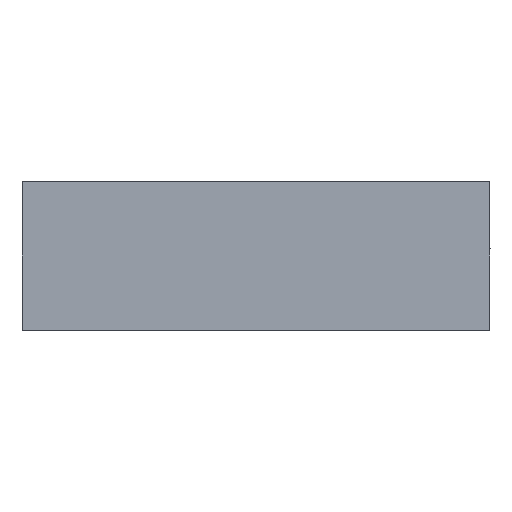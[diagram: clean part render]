
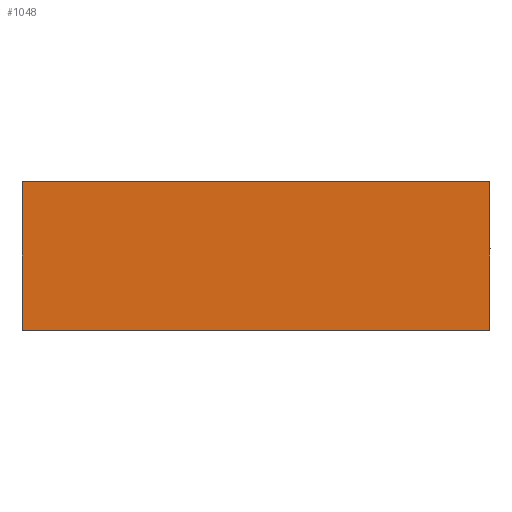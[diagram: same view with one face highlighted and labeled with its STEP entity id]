
A CAD part, front view. The second image highlights one B-rep face of the part: STEP entity #1048.
In plain terms, the highlighted planar face has unit normal (0, -1, 0).
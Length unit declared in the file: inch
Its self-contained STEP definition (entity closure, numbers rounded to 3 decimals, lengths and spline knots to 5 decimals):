
#828 = VERTEX_POINT ( 'NONE', #16489 ) ;
#1048 = ADVANCED_FACE ( 'NONE', ( #20645 ), #13190, .F. ) ;
#1146 = CARTESIAN_POINT ( 'NONE',  ( 22., 0., 0. ) ) ;
#1296 = VECTOR ( 'NONE', #3614, 39.37008 ) ;
#1470 = CARTESIAN_POINT ( 'NONE',  ( 22., 0., 0. ) ) ;
#1650 = CARTESIAN_POINT ( 'NONE',  ( 0., 0., -7. ) ) ;
#1913 = CARTESIAN_POINT ( 'NONE',  ( 22., 0., -7. ) ) ;
#3226 = DIRECTION ( 'NONE',  ( 0., 0., -1. ) ) ;
#3614 = DIRECTION ( 'NONE',  ( 0., 0., -1. ) ) ;
#4802 = DIRECTION ( 'NONE',  ( -1., 0., 0. ) ) ;
#5518 = VERTEX_POINT ( 'NONE', #1146 ) ;
#6044 = VERTEX_POINT ( 'NONE', #1913 ) ;
#6809 = CARTESIAN_POINT ( 'NONE',  ( 0., 0., 0. ) ) ;
#10246 = VECTOR ( 'NONE', #4802, 39.37008 ) ;
#10592 = CARTESIAN_POINT ( 'NONE',  ( 22., 0., -7. ) ) ;
#10806 = EDGE_LOOP ( 'NONE', ( #23433, #19402, #19938, #21276 ) ) ;
#10888 = EDGE_CURVE ( 'NONE', #5518, #828, #15224, .T. ) ;
#10960 = EDGE_CURVE ( 'NONE', #828, #12202, #22262, .T. ) ;
#10962 = EDGE_CURVE ( 'NONE', #6044, #12202, #12969, .T. ) ;
#11018 = EDGE_CURVE ( 'NONE', #5518, #6044, #16020, .T. ) ;
#12188 = CARTESIAN_POINT ( 'NONE',  ( 22., 0., 0. ) ) ;
#12202 = VERTEX_POINT ( 'NONE', #1650 ) ;
#12357 = VECTOR ( 'NONE', #12525, 39.37008 ) ;
#12525 = DIRECTION ( 'NONE',  ( -1., 0., 0. ) ) ;
#12969 = LINE ( 'NONE', #10592, #12357 ) ;
#13031 = DIRECTION ( 'NONE',  ( 0., 0., 1. ) ) ;
#13054 = DIRECTION ( 'NONE',  ( 0., 1., 0. ) ) ;
#13109 = CARTESIAN_POINT ( 'NONE',  ( 22., 0., 0. ) ) ;
#13190 = PLANE ( 'NONE',  #20958 ) ;
#15224 = LINE ( 'NONE', #12188, #10246 ) ;
#16020 = LINE ( 'NONE', #1470, #1296 ) ;
#16489 = CARTESIAN_POINT ( 'NONE',  ( 0., 0., 0. ) ) ;
#19402 = ORIENTED_EDGE ( 'NONE', *, *, #10962, .F. ) ;
#19938 = ORIENTED_EDGE ( 'NONE', *, *, #11018, .F. ) ;
#20645 = FACE_OUTER_BOUND ( 'NONE', #10806, .T. ) ;
#20958 = AXIS2_PLACEMENT_3D ( 'NONE', #13109, #13054, #13031 ) ;
#21276 = ORIENTED_EDGE ( 'NONE', *, *, #10888, .T. ) ;
#21726 = VECTOR ( 'NONE', #3226, 39.37008 ) ;
#22262 = LINE ( 'NONE', #6809, #21726 ) ;
#23433 = ORIENTED_EDGE ( 'NONE', *, *, #10960, .T. ) ;
